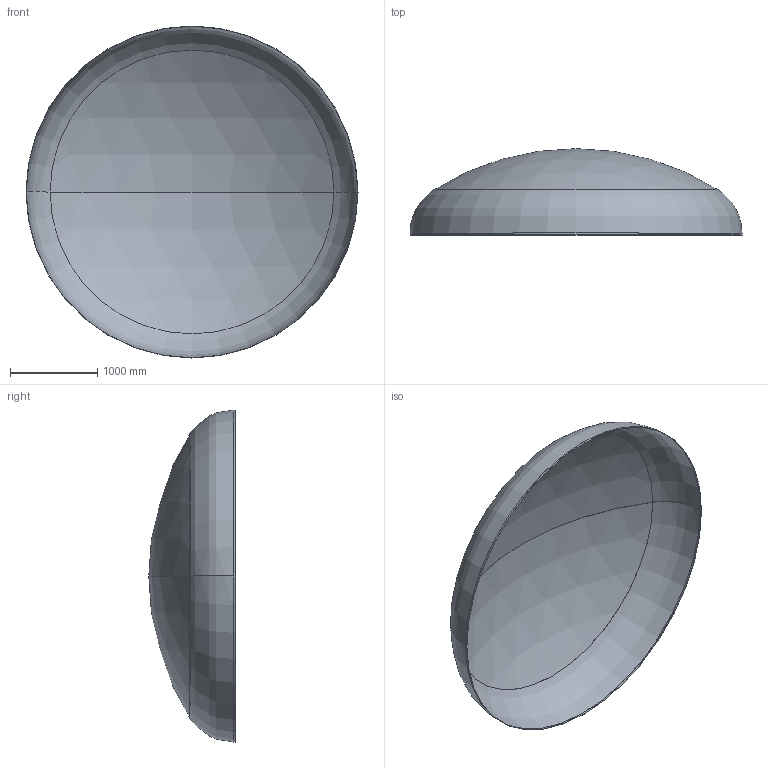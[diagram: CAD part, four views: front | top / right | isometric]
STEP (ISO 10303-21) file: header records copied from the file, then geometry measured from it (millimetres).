
FILE_DESCRIPTION (( 'STEP AP203' ), '1' );
FILE_NAME ('DIN 28013 Korbbogenform_-_Boden DIN 28013 - 3800 x 20 - I - s=3.step', '2016-07-01T20:56:39', ( '' ), ( '' ), 'SwSTEP 2.0', 'SolidWorks 2013', '' );
FILE_SCHEMA (( 'CONFIG_CONTROL_DESIGN' ));
Length unit declared in the file: millimetre
Products named in the file (1): DIN 28013 Korbbogenform_-_Boden DIN 28013 - 3800 x 20 - I - s=3
Bounding box: 3800 x 987.99 x 3800 mm (x, y, z)
Volume: 47791129.8 mm3; surface area: 31896544.7 mm2
Topology: 1 solids, 1 shells, 13 faces, 24 edges, 14 vertices
Faces by surface type: torus 4, cylinder 4, sphere 4, plane 1
Entity records: 407 total; most frequent: DIRECTION 72, CARTESIAN_POINT 52, ORIENTED_EDGE 48, AXIS2_PLACEMENT_3D 34, EDGE_CURVE 24, CIRCLE 20, EDGE_LOOP 14, VERTEX_POINT 14
